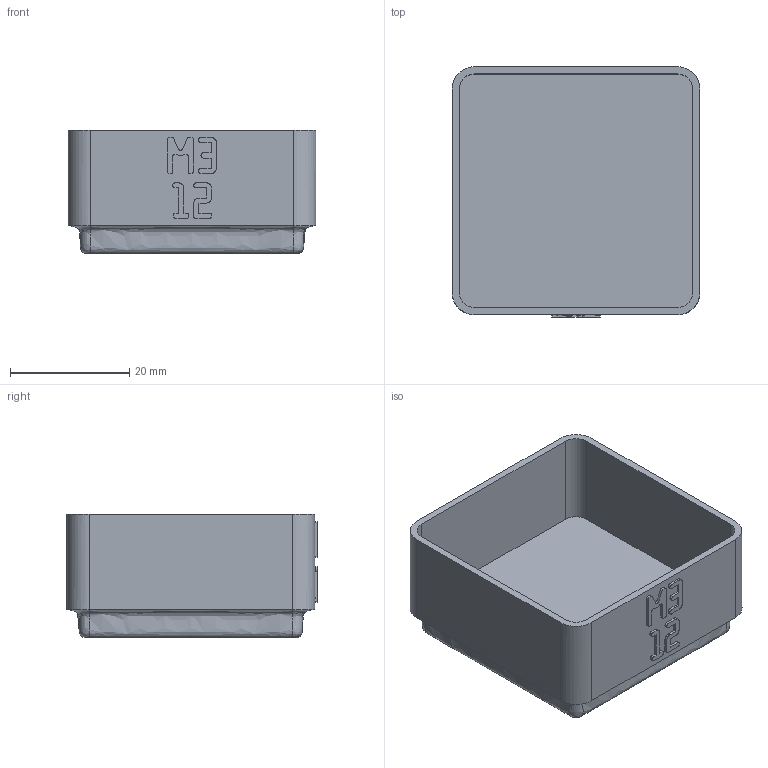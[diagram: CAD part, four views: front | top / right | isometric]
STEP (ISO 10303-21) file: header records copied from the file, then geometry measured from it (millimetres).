
FILE_DESCRIPTION(('Open CASCADE Model'),'2;1');
FILE_NAME('Open CASCADE Shape Model','2026-11-03T15:27:34',('Author'),( 'Open CASCADE'),'Open CASCADE STEP processor 8.0','build123d', 'Unknown');
FILE_SCHEMA(('AUTOMOTIVE_DESIGN { 1 0 10303 214 1 1 1 1 }'));
Length unit declared in the file: millimetre
Products named in the file (1): COMPOUND
Bounding box: 41.5 x 41.9 x 20.75 mm (x, y, z)
Volume: 9643.2 mm3; surface area: 8974.1 mm2
Topology: 1 solids, 1 shells, 458 faces, 1345 edges, 894 vertices
Faces by surface type: plane 442, bspline 8, cylinder 8
Entity records: 31966 total; most frequent: CARTESIAN_POINT 6830, DIRECTION 4039, LINE 3109, VECTOR 3109, ORIENTED_EDGE 2690, PCURVE 2690, DEFINITIONAL_REPRESENTATION 2690, EDGE_CURVE 1345
